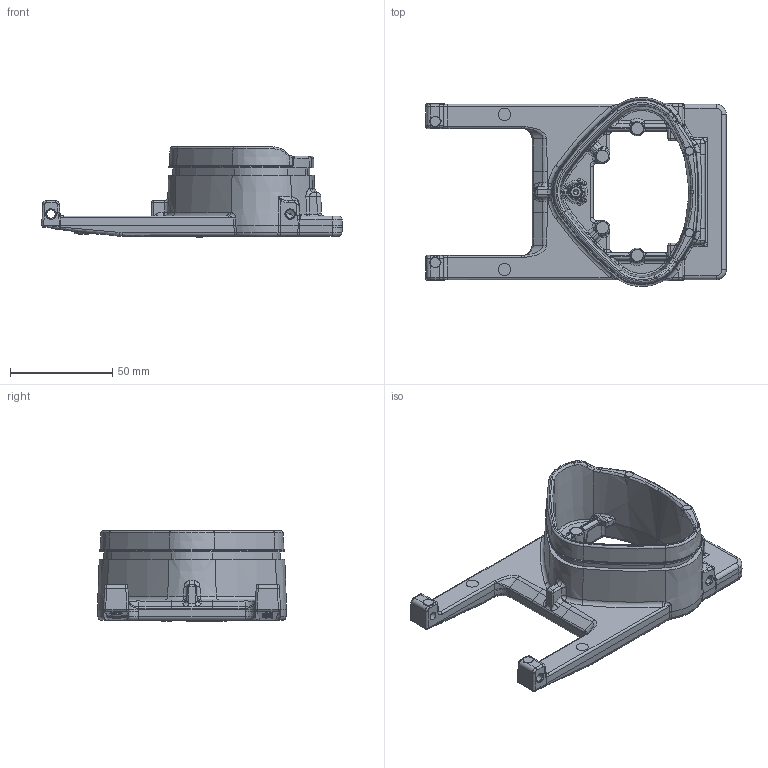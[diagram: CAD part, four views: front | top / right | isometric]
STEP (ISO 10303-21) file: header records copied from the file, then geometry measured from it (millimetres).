
FILE_DESCRIPTION(('CATIA V5 STEP 214'),'2;1');
FILE_NAME('C:\Temp\ddxv6\202479\10223457-1-0000A.stp','2014-02-14T11:49:05+00:00',('Leopold Kostal'),('Kostal GmbH'),'CATIA Version 5 Release 19 SP 8 (IN-10)','CATIA V5 STEP AP214','none');
FILE_SCHEMA(('AUTOMOTIVE_DESIGN { 1 0 10303 214 1 1 1 1 }'));
Length unit declared in the file: millimetre
Products named in the file (1): 10223457-1-0000A
Bounding box: 147 x 92.46 x 44.1 mm (x, y, z)
Volume: 103615.9 mm3; surface area: 38107.5 mm2
Topology: 1 solids, 1 shells, 1488 faces, 3734 edges, 2226 vertices
Faces by surface type: plane 387, bspline 364, extrusion 274, cylinder 245, torus 132, cone 62, sphere 24
Entity records: 64959 total; most frequent: CARTESIAN_POINT 36348, ORIENTED_EDGE 7316, EDGE_CURVE 3658, DIRECTION 3305, VERTEX_POINT 2222, EDGE_LOOP 1544, B_SPLINE_CURVE_WITH_KNOTS 1489, ADVANCED_FACE 1488
